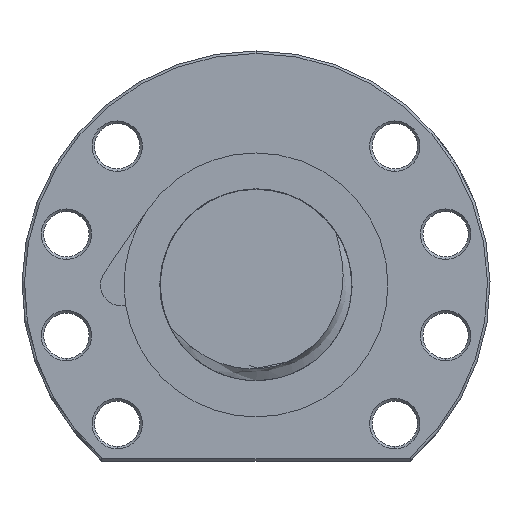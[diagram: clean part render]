
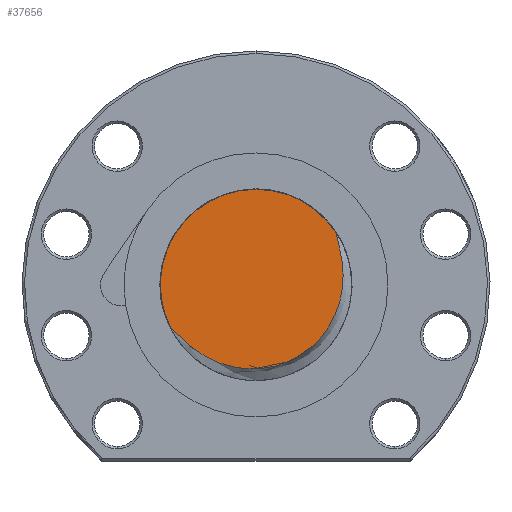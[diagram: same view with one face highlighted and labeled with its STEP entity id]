
A CAD part, left-side view. The second image highlights one B-rep face of the part: STEP entity #37656.
In plain terms, the highlighted planar face has unit normal (-1, 0, 0).
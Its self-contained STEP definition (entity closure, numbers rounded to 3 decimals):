
#95 = DIRECTION ( 'NONE',  ( 0., 0., -1. ) ) ;
#96 = DIRECTION ( 'NONE',  ( 1., 0., 0. ) ) ;
#97 = CARTESIAN_POINT ( 'NONE',  ( -232., 0., 0. ) ) ;
#98 = AXIS2_PLACEMENT_3D ( 'NONE', #97, #96, #95 ) ;
#99 = PLANE ( 'NONE',  #98 ) ;
#241 = FACE_OUTER_BOUND ( 'NONE', #37657, .T. ) ;
#7554 = CARTESIAN_POINT ( 'NONE',  ( -232., -15.869, 10.448 ) ) ;
#7555 = CARTESIAN_POINT ( 'NONE',  ( -232., -15.917, 10.159 ) ) ;
#7556 = CARTESIAN_POINT ( 'NONE',  ( -232., -15.984, 9.873 ) ) ;
#7557 = CARTESIAN_POINT ( 'NONE',  ( -232., -16.124, 9.303 ) ) ;
#7558 = CARTESIAN_POINT ( 'NONE',  ( -232., -16.198, 9.019 ) ) ;
#7559 = CARTESIAN_POINT ( 'NONE',  ( -232., -16.418, 8.167 ) ) ;
#7560 = CARTESIAN_POINT ( 'NONE',  ( -232., -16.562, 7.598 ) ) ;
#7561 = CARTESIAN_POINT ( 'NONE',  ( -232., -16.943, 5.885 ) ) ;
#7562 = CARTESIAN_POINT ( 'NONE',  ( -232., -17.133, 4.734 ) ) ;
#7563 = CARTESIAN_POINT ( 'NONE',  ( -232., -17.278, 2.989 ) ) ;
#7564 = CARTESIAN_POINT ( 'NONE',  ( -232., -17.304, 2.404 ) ) ;
#7565 = CARTESIAN_POINT ( 'NONE',  ( -232., -17.305, 1.228 ) ) ;
#7566 = CARTESIAN_POINT ( 'NONE',  ( -232., -17.28, 0.635 ) ) ;
#7567 = CARTESIAN_POINT ( 'NONE',  ( -232., -17.128, -1.124 ) ) ;
#7568 = CARTESIAN_POINT ( 'NONE',  ( -232., -16.925, -2.276 ) ) ;
#7569 = CARTESIAN_POINT ( 'NONE',  ( -232., -16.46, -3.971 ) ) ;
#7570 = CARTESIAN_POINT ( 'NONE',  ( -232., -16.278, -4.532 ) ) ;
#7571 = CARTESIAN_POINT ( 'NONE',  ( -232., -15.858, -5.639 ) ) ;
#7572 = CARTESIAN_POINT ( 'NONE',  ( -232., -15.623, -6.178 ) ) ;
#7573 = CARTESIAN_POINT ( 'NONE',  ( -232., -14.846, -7.754 ) ) ;
#7574 = CARTESIAN_POINT ( 'NONE',  ( -232., -14.232, -8.75 ) ) ;
#7575 = CARTESIAN_POINT ( 'NONE',  ( -232., -13.159, -10.155 ) ) ;
#7576 = CARTESIAN_POINT ( 'NONE',  ( -232., -12.776, -10.609 ) ) ;
#7577 = CARTESIAN_POINT ( 'NONE',  ( -232., -11.974, -11.469 ) ) ;
#7578 = CARTESIAN_POINT ( 'NONE',  ( -232., -11.554, -11.876 ) ) ;
#7579 = CARTESIAN_POINT ( 'NONE',  ( -232., -10.677, -12.649 ) ) ;
#7580 = CARTESIAN_POINT ( 'NONE',  ( -232., -10.22, -13.013 ) ) ;
#7581 = CARTESIAN_POINT ( 'NONE',  ( -232., -9.266, -13.697 ) ) ;
#7582 = CARTESIAN_POINT ( 'NONE',  ( -232., -8.768, -14.019 ) ) ;
#7583 = CARTESIAN_POINT ( 'NONE',  ( -232., -7.233, -14.904 ) ) ;
#7584 = CARTESIAN_POINT ( 'NONE',  ( -232., -6.167, -15.385 ) ) ;
#7585 = CARTESIAN_POINT ( 'NONE',  ( -232., -4.505, -15.945 ) ) ;
#7586 = CARTESIAN_POINT ( 'NONE',  ( -232., -3.941, -16.105 ) ) ;
#7587 = CARTESIAN_POINT ( 'NONE',  ( -232., -2.791, -16.37 ) ) ;
#7588 = CARTESIAN_POINT ( 'NONE',  ( -232., -2.206, -16.475 ) ) ;
#7589 = CARTESIAN_POINT ( 'NONE',  ( -232., -0.461, -16.7 ) ) ;
#7590 = CARTESIAN_POINT ( 'NONE',  ( -232., 0.705, -16.735 ) ) ;
#7591 = CARTESIAN_POINT ( 'NONE',  ( -232., 2.458, -16.62 ) ) ;
#7592 = CARTESIAN_POINT ( 'NONE',  ( -232., 3.043, -16.553 ) ) ;
#7593 = CARTESIAN_POINT ( 'NONE',  ( -232., 4.212, -16.363 ) ) ;
#7594 = CARTESIAN_POINT ( 'NONE',  ( -232., 4.787, -16.241 ) ) ;
#7595 = CARTESIAN_POINT ( 'NONE',  ( -232., 6.486, -15.797 ) ) ;
#7596 = CARTESIAN_POINT ( 'NONE',  ( -232., 7.584, -15.398 ) ) ;
#7597 = CARTESIAN_POINT ( 'NONE',  ( -232., 9.181, -14.652 ) ) ;
#7598 = CARTESIAN_POINT ( 'NONE',  ( -232., 9.707, -14.377 ) ) ;
#7604 = CARTESIAN_POINT ( 'NONE',  ( -232., 10.727, -13.788 ) ) ;
#7605 = CARTESIAN_POINT ( 'NONE',  ( -232., 11.221, -13.473 ) ) ;
#7606 = CARTESIAN_POINT ( 'NONE',  ( -232., 12.662, -12.474 ) ) ;
#7607 = CARTESIAN_POINT ( 'NONE',  ( -232., 13.565, -11.734 ) ) ;
#7608 = CARTESIAN_POINT ( 'NONE',  ( -232., 14.859, -10.546 ) ) ;
#7609 = CARTESIAN_POINT ( 'NONE',  ( -232., 15.28, -10.137 ) ) ;
#7610 = CARTESIAN_POINT ( 'NONE',  ( -232., 15.909, -9.519 ) ) ;
#7611 = CARTESIAN_POINT ( 'NONE',  ( -232., 16.118, -9.313 ) ) ;
#7612 = CARTESIAN_POINT ( 'NONE',  ( -232., 16.542, -8.907 ) ) ;
#7613 = CARTESIAN_POINT ( 'NONE',  ( -232., 16.756, -8.705 ) ) ;
#7614 = CARTESIAN_POINT ( 'NONE',  ( -232., 16.983, -8.519 ) ) ;
#7615 = B_SPLINE_CURVE_WITH_KNOTS ( 'NONE', 3,
 ( #7614, #7613, #7612, #7611, #7610, #7609, #7608, #7607, #7606, #7605, #7604, #7598, #7597, #7596, #7595, #7594, #7593, #7592, #7591, #7590, #7589, #7588, #7587, #7586, #7585, #7584, #7583, #7582, #7581, #7580, #7579, #7578, #7577, #7576, #7575, #7574, #7573, #7572, #7571, #7570, #7569, #7568, #7567, #7566, #7565, #7564, #7563, #7562, #7561, #7560, #7559, #7558, #7557, #7556, #7555, #7554 ),
 .UNSPECIFIED., .F., .F.,
 ( 4, 2, 2, 2, 2, 2, 2, 2, 2, 2, 2, 2, 2, 2, 2, 2, 2, 2, 2, 2, 2, 2, 2, 2, 2, 2, 2, 4 ),
 ( 0.015, 0.016, 0.017, 0.018, 0.022, 0.023, 0.025, 0.029, 0.03, 0.032, 0.036, 0.037, 0.039, 0.043, 0.044, 0.046, 0.048, 0.049, 0.053, 0.055, 0.056, 0.06, 0.062, 0.063, 0.067, 0.069, 0.069, 0.07 ),
 .UNSPECIFIED. ) ;
#25350 = CARTESIAN_POINT ( 'NONE',  ( -232., 16.983, -8.519 ) ) ;
#26424 = CARTESIAN_POINT ( 'NONE',  ( -232., 0., 19. ) ) ;
#26425 = DIRECTION ( 'NONE',  ( 0., 1., 0. ) ) ;
#26426 = DIRECTION ( 'NONE',  ( 1., 0., 0. ) ) ;
#26427 = CARTESIAN_POINT ( 'NONE',  ( -232., 0., 0. ) ) ;
#26428 = AXIS2_PLACEMENT_3D ( 'NONE', #26427, #26426, #26425 ) ;
#26429 = CIRCLE ( 'NONE', #26428, 19. ) ;
#28756 = CARTESIAN_POINT ( 'NONE',  ( -232., -15.869, 10.448 ) ) ;
#28757 = DIRECTION ( 'NONE',  ( 0., 1., 0. ) ) ;
#28758 = DIRECTION ( 'NONE',  ( 1., 0., 0. ) ) ;
#28759 = AXIS2_PLACEMENT_3D ( 'NONE', #28765, #28758, #28757 ) ;
#28760 = CIRCLE ( 'NONE', #28759, 19. ) ;
#28765 = CARTESIAN_POINT ( 'NONE',  ( -232., 0., 0. ) ) ;
#31662 = VERTEX_POINT ( 'NONE', #25350 ) ;
#36546 = EDGE_CURVE ( 'NONE', #31662, #36548, #26429, .T. ) ;
#36548 = VERTEX_POINT ( 'NONE', #26424 ) ;
#37332 = EDGE_CURVE ( 'NONE', #36548, #37334, #28760, .T. ) ;
#37334 = VERTEX_POINT ( 'NONE', #28756 ) ;
#37655 = ORIENTED_EDGE ( 'NONE', *, *, #36546, .F. ) ;
#37656 = ADVANCED_FACE ( 'NONE', ( #241 ), #99, .F. ) ;
#37657 = EDGE_LOOP ( 'NONE', ( #37655, #37673, #37675 ) ) ;
#37673 = ORIENTED_EDGE ( 'NONE', *, *, #37674, .T. ) ;
#37674 = EDGE_CURVE ( 'NONE', #31662, #37334, #7615, .T. ) ;
#37675 = ORIENTED_EDGE ( 'NONE', *, *, #37332, .F. ) ;
